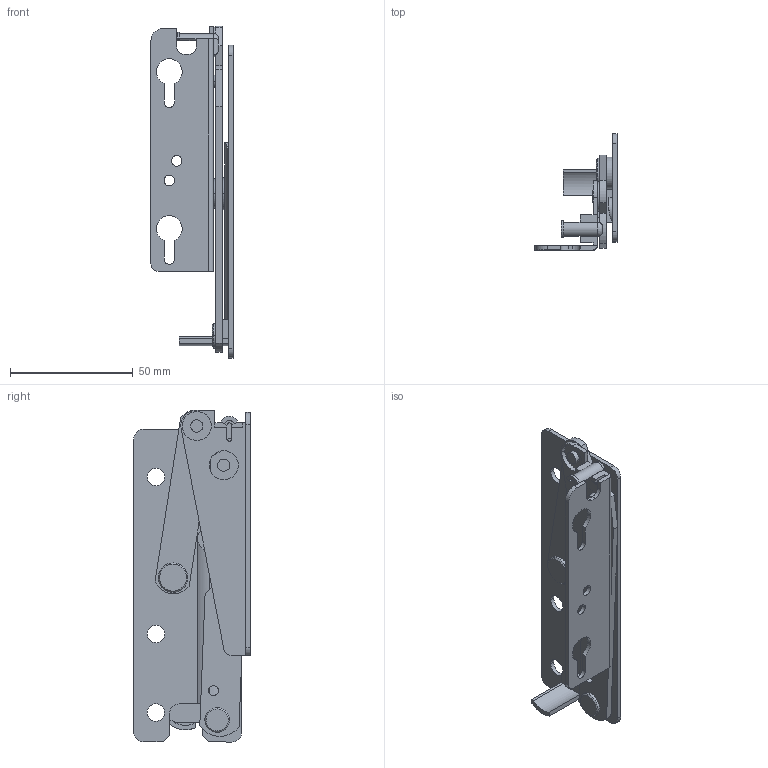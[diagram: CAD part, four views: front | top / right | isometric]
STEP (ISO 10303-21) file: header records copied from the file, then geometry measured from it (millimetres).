
FILE_DESCRIPTION (( 'STEP AP203' ), '1' );
FILE_NAME ('Kinvaro_T-57_rechts_D2575018125~0.step', '2012-05-04T06:43:28', ( 'admin' ), ( 'Hewlett-Packard Company' ), 'SwSTEP 2.0', 'SolidWorks 2011', '' );
FILE_SCHEMA (( 'CONFIG_CONTROL_DESIGN' ));
Length unit declared in the file: millimetre
Products named in the file (1): Kinvaro_T-57_rechts_D2575018125~0
Bounding box: 33.5 x 47.47 x 135.36 mm (x, y, z)
Volume: 25472.7 mm3; surface area: 27591.4 mm2
Topology: 1 solids, 2 shells, 179 faces, 475 edges, 307 vertices
Faces by surface type: plane 99, cylinder 75, cone 4, torus 1
Entity records: 5729 total; most frequent: CARTESIAN_POINT 1038, DIRECTION 987, ORIENTED_EDGE 950, EDGE_CURVE 475, AXIS2_PLACEMENT_3D 340, LINE 307, VECTOR 307, VERTEX_POINT 307
